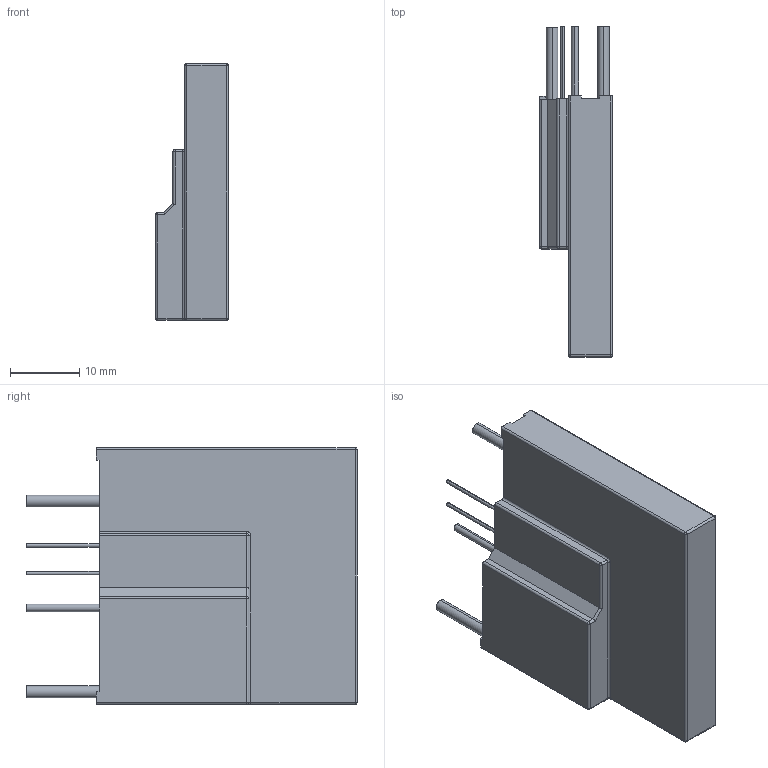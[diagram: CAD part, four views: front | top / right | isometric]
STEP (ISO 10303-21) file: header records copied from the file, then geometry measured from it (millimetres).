
FILE_DESCRIPTION((''),'2;1');
FILE_NAME('TFMOV34S','2020-07-15T13:22:15',('SET-00098'),(''),'CREO PARAMETRIC BY PTC INC, 2018400','CREO PARAMETRIC BY PTC INC, 2018400','');
FILE_SCHEMA(('CONFIG_CONTROL_DESIGN'));
Length unit declared in the file: millimetre
Products named in the file (1): TFMOV34S
Bounding box: 10.5 x 47.6 x 37 mm (x, y, z)
Volume: 10488.7 mm3; surface area: 4158.9 mm2
Topology: 1 solids, 1 shells, 75 faces, 177 edges, 109 vertices
Faces by surface type: plane 37, cylinder 29, sphere 7, torus 2
Entity records: 2179 total; most frequent: DIRECTION 381, CARTESIAN_POINT 375, ORIENTED_EDGE 354, EDGE_CURVE 177, AXIS2_PLACEMENT_3D 131, VECTOR 119, LINE 119, VERTEX_POINT 109
